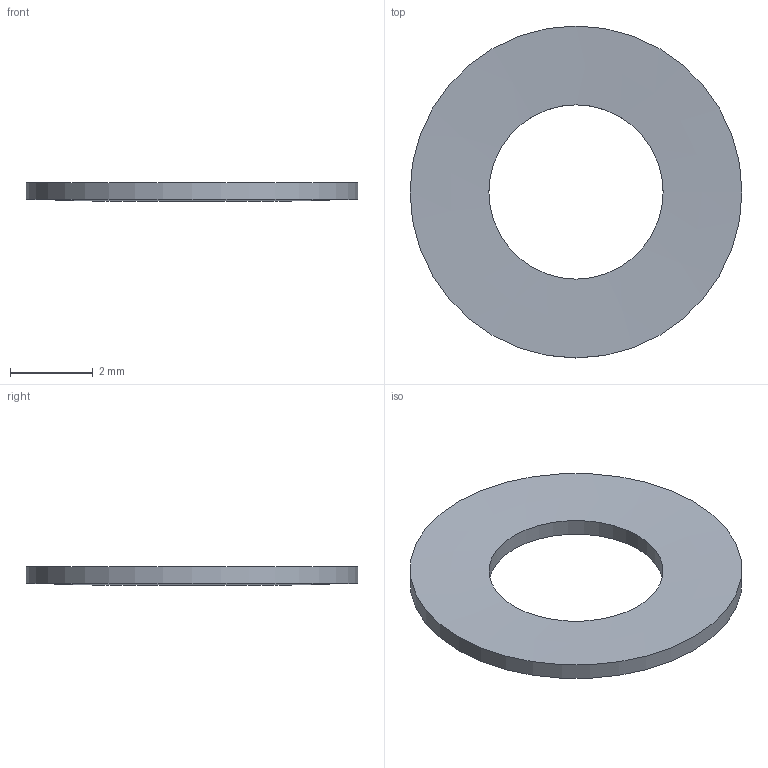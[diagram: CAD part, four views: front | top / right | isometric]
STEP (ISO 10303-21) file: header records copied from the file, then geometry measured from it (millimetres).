
FILE_DESCRIPTION(('Open CASCADE Model'),'2;1');
FILE_NAME('Open CASCADE Shape Model','2026-09-24T17:42:53',('Author'),( 'Open CASCADE'),'Open CASCADE STEP processor 7.8','Open CASCADE 7.8' ,'Unknown');
FILE_SCHEMA(('AUTOMOTIVE_DESIGN { 1 0 10303 214 1 1 1 1 }'));
Length unit declared in the file: millimetre
Products named in the file (1): Open CASCADE STEP translator 7.8 45
Bounding box: 8 x 8 x 0.45 mm (x, y, z)
Volume: 14.6 mm3; surface area: 88.2 mm2
Topology: 1 solids, 1 shells, 4 faces, 8 edges, 4 vertices
Faces by surface type: cone 2, cylinder 2
Full cylindrical faces by diameter (mm): 4.2 x1, 8 x1
Entity records: 222 total; most frequent: DIRECTION 38, CARTESIAN_POINT 33, LINE 20, VECTOR 20, ORIENTED_EDGE 16, PCURVE 16, DEFINITIONAL_REPRESENTATION 16, AXIS2_PLACEMENT_3D 9
